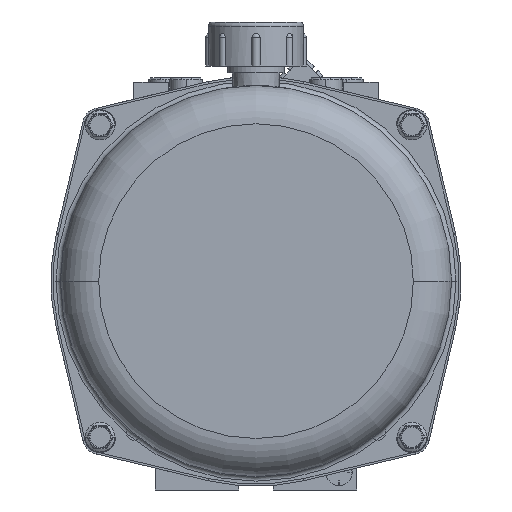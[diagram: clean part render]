
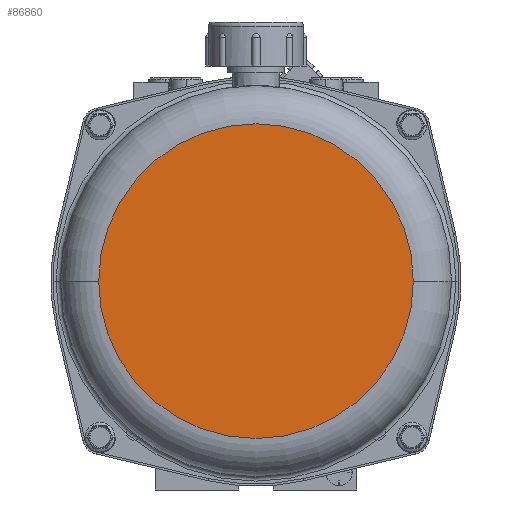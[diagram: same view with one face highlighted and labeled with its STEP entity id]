
A CAD part, front view. The second image highlights one B-rep face of the part: STEP entity #86860.
In plain terms, the highlighted planar face has unit normal (0, -1, 0).
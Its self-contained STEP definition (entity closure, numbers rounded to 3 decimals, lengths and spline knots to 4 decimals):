
#86206=CARTESIAN_POINT('',(0.,-17.523,0.97));
#86207=DIRECTION('',(0.,-1.,0.));
#86208=DIRECTION('',(1.,0.,0.));
#86209=AXIS2_PLACEMENT_3D('',#86206,#86207,#86208);
#86263=CARTESIAN_POINT('',(0.,-17.523,0.97));
#86264=DIRECTION('',(0.,1.,0.));
#86265=DIRECTION('',(1.,0.,0.));
#86266=AXIS2_PLACEMENT_3D('',#86263,#86264,#86265);
#86681=CARTESIAN_POINT('',(2.2525,-17.523,0.97));
#86683=VERTEX_POINT('',#86681);
#86689=CARTESIAN_POINT('',(-2.2525,-17.523,0.97));
#86691=VERTEX_POINT('',#86689);
#86849=CARTESIAN_POINT('',(0.,-17.523,0.97));
#86850=DIRECTION('',(0.,-1.,0.));
#86851=DIRECTION('',(-1.,0.,0.));
#86852=AXIS2_PLACEMENT_3D('',#86849,#86850,#86851);
#86853=PLANE('',#86852);
#86855=ORIENTED_EDGE('',*,*,#86854,.T.);
#86857=ORIENTED_EDGE('',*,*,#86856,.F.);
#86858=EDGE_LOOP('',(#86855,#86857));
#86859=FACE_OUTER_BOUND('',#86858,.F.);
#86860=ADVANCED_FACE('',(#86859),#86853,.T.);
#86210=CIRCLE('',#86209,2.2525);
#86267=CIRCLE('',#86266,2.2525);
#86854=EDGE_CURVE('',#86683,#86691,#86267,.T.);
#86856=EDGE_CURVE('',#86683,#86691,#86210,.T.);
